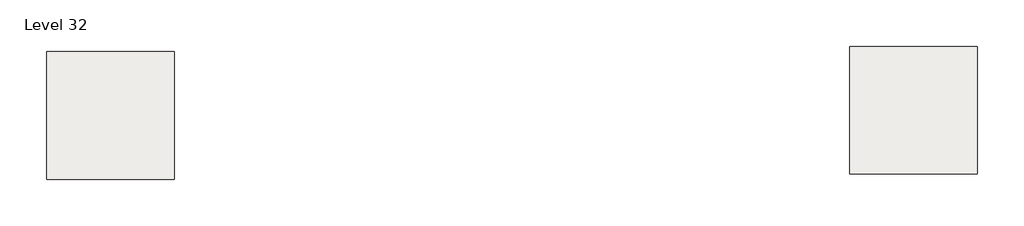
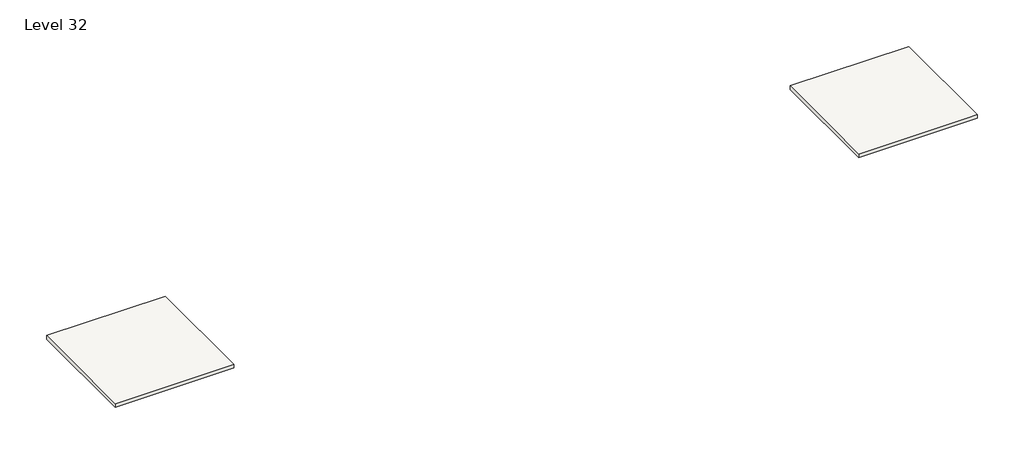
# One storey: 2 slabs.
"""IFC4 building model written with IfcOpenShell, lengths in millimetres."""

from ifc_helpers import new_model, si_unit, frame, origin, place, context, project, spatial, polyline, outline, extrude, element, save

model = new_model("IFC4")

# Units and contexts
model_context = context("Model", 3, world=origin())
ifc_project = project(units=[si_unit("LENGTHUNIT", "METRE", prefix="MILLI")], contexts=[model_context])

# Site, building, storey
site = spatial("IfcSite", under=ifc_project)
building = spatial("IfcBuilding", under=site)
storey = spatial("IfcBuildingStorey", under=building, Name="Level 32", Elevation=94488.0)

# Slabs
placement = place(None, origin())
element("IfcSlab", 1, ObjectType="Generic - 12\"", at=placement, inside=storey, context=model_context, shape_type="SweptSolid", body=[
    extrude(outline(polyline([(-8641.8488996, 6449.9495511), (-8641.8488996, -2694.0504489), (-17785.8488996, -2694.0504489), (-17785.8488996, 6449.9495511), (-8641.8488996, 6449.9495511)])), frame((0.0, 0.0, 94183.2), z_axis=(0.0, 0.0, 1.0), x_axis=(1.0, 0.0, 0.0)), (0.0, 0.0, 1.0), 304.8),
])
element("IfcSlab", 2, ObjectType="Generic - 12\"", at=placement, inside=storey, context=model_context, shape_type="SweptSolid", body=[
    extrude(outline(polyline([(48791.8576677, 6827.0904402), (48791.8576677, -2316.9095598), (39647.8576677, -2316.9095598), (39647.8576677, 6827.0904402), (48791.8576677, 6827.0904402)])), frame((0.0, 0.0, 94183.2), z_axis=(0.0, 0.0, 1.0), x_axis=(1.0, 0.0, 0.0)), (0.0, 0.0, 1.0), 304.8),
])

save(model, "model.ifc")
